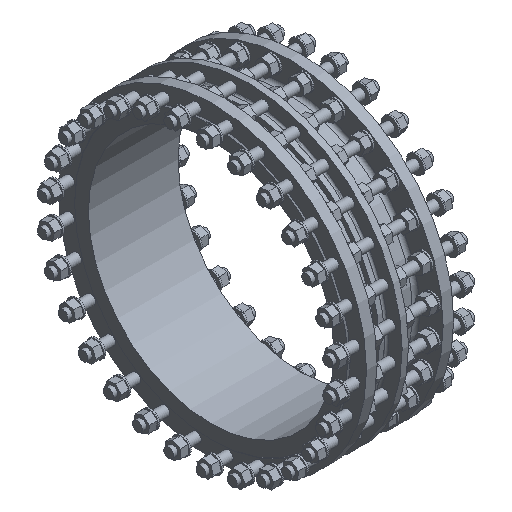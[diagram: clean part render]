
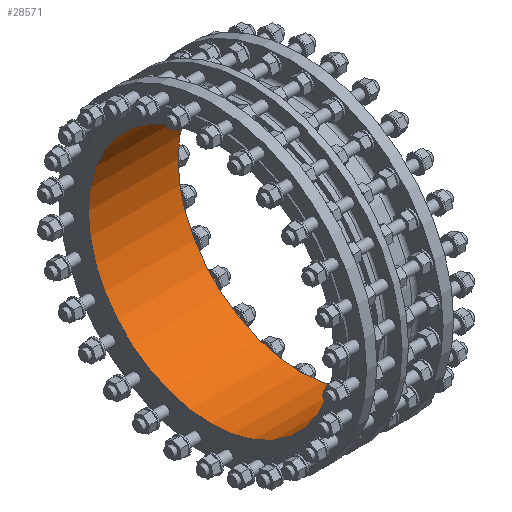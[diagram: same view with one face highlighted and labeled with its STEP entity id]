
A CAD part, isometric view. The second image highlights one B-rep face of the part: STEP entity #28571.
In plain terms, the highlighted cylindrical face has radius 500 mm (diameter 1000 mm), a full revolution.
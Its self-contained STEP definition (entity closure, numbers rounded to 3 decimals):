
#454 = CARTESIAN_POINT ( 'NONE',  ( -85., 0., -500. ) ) ;
#3197 = CARTESIAN_POINT ( 'NONE',  ( 280., 0., 0. ) ) ;
#3613 = CARTESIAN_POINT ( 'NONE',  ( -85., 0., 0. ) ) ;
#4609 = FACE_OUTER_BOUND ( 'NONE', #31227, .T. ) ;
#5648 = CARTESIAN_POINT ( 'NONE',  ( 280., 0., 500. ) ) ;
#7393 = DIRECTION ( 'NONE',  ( 0., 0., -1. ) ) ;
#10759 = CIRCLE ( 'NONE', #25619, 500. ) ;
#17219 = DIRECTION ( 'NONE',  ( 1., 0., 0. ) ) ;
#17783 = FACE_OUTER_BOUND ( 'NONE', #19361, .T. ) ;
#19361 = EDGE_LOOP ( 'NONE', ( #21139 ) ) ;
#20817 = DIRECTION ( 'NONE',  ( -1., 0., 0. ) ) ;
#21139 = ORIENTED_EDGE ( 'NONE', *, *, #29254, .F. ) ;
#24710 = DIRECTION ( 'NONE',  ( -1., 0., 0. ) ) ;
#25113 = AXIS2_PLACEMENT_3D ( 'NONE', #3197, #20817, #34200 ) ;
#25619 = AXIS2_PLACEMENT_3D ( 'NONE', #3613, #17219, #7393 ) ;
#28571 = ADVANCED_FACE ( 'NONE', ( #17783, #4609 ), #42071, .F. ) ;
#28923 = DIRECTION ( 'NONE',  ( 0., 0., 1. ) ) ;
#29254 = EDGE_CURVE ( 'NONE', #42667, #42667, #30075, .T. ) ;
#30075 = CIRCLE ( 'NONE', #25113, 500. ) ;
#30783 = AXIS2_PLACEMENT_3D ( 'NONE', #38728, #24710, #28923 ) ;
#31011 = VERTEX_POINT ( 'NONE', #454 ) ;
#31227 = EDGE_LOOP ( 'NONE', ( #36318 ) ) ;
#34200 = DIRECTION ( 'NONE',  ( 0., 0., 1. ) ) ;
#36318 = ORIENTED_EDGE ( 'NONE', *, *, #42943, .F. ) ;
#38728 = CARTESIAN_POINT ( 'NONE',  ( 0., 0., 0. ) ) ;
#42071 = CYLINDRICAL_SURFACE ( 'NONE', #30783, 500. ) ;
#42667 = VERTEX_POINT ( 'NONE', #5648 ) ;
#42943 = EDGE_CURVE ( 'NONE', #31011, #31011, #10759, .T. ) ;
